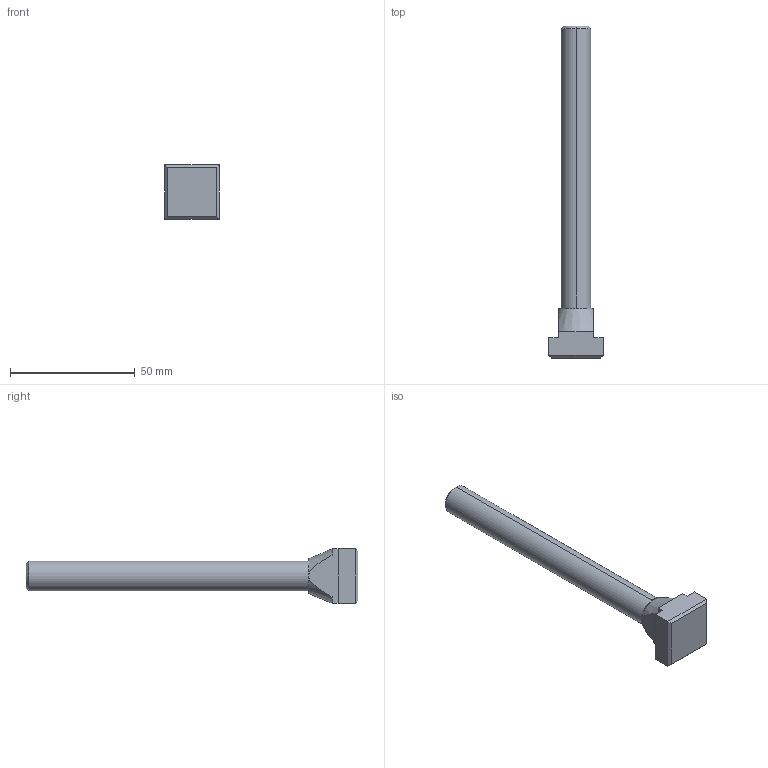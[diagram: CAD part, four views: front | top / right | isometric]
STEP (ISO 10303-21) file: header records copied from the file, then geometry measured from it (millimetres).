
FILE_DESCRIPTION (( 'STEP AP203' ), '1' );
FILE_NAME ('Wiberger-din787_14-m12x125.step', '2016-07-01T13:16:39', ( 'Magnus' ), ( 'Microsoft' ), 'SwSTEP 2.0', 'SolidWorks 2016', '' );
FILE_SCHEMA (( 'CONFIG_CONTROL_DESIGN' ));
Length unit declared in the file: millimetre
Products named in the file (1): Wiberger-din787_14-m12x125
Bounding box: 22 x 133 x 22 mm (x, y, z)
Volume: 19430.3 mm3; surface area: 6442.6 mm2
Topology: 1 solids, 1 shells, 27 faces, 66 edges, 42 vertices
Faces by surface type: plane 17, cone 5, cylinder 5
Entity records: 931 total; most frequent: CARTESIAN_POINT 218, ORIENTED_EDGE 132, DIRECTION 130, EDGE_CURVE 66, AXIS2_PLACEMENT_3D 44, VERTEX_POINT 42, LINE 42, VECTOR 42
